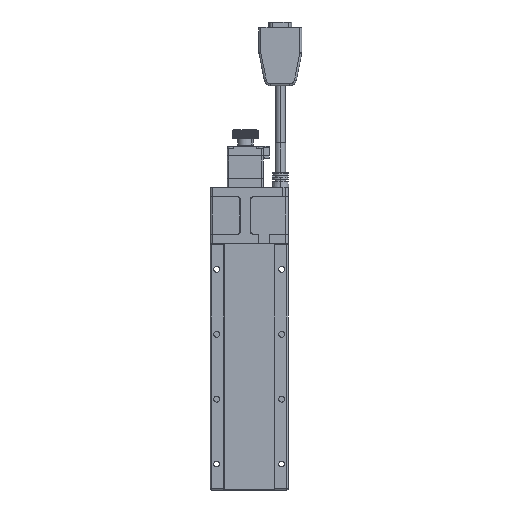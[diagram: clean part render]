
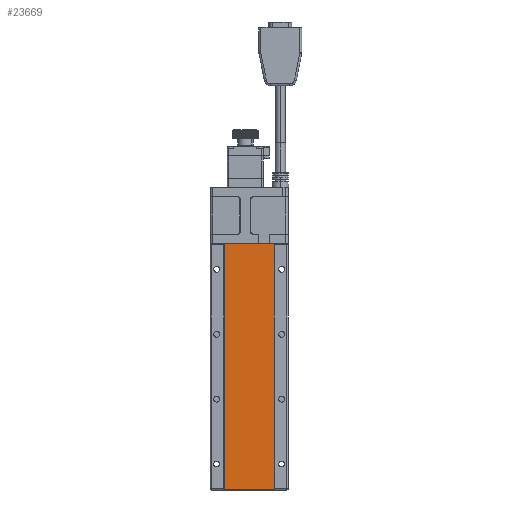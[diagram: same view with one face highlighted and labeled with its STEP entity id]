
A CAD part, front view. The second image highlights one B-rep face of the part: STEP entity #23669.
In plain terms, the highlighted planar face has unit normal (0, -1, 0).
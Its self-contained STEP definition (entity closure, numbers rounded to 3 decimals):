
#116 = EDGE_CURVE ( 'NONE', #92357, #113627, #84438, .T. ) ;
#400 = VERTEX_POINT ( 'NONE', #100101 ) ;
#6520 = DIRECTION ( 'NONE',  ( 0., 1., 0. ) ) ;
#6979 = VECTOR ( 'NONE', #103602, 1000. ) ;
#10996 = EDGE_CURVE ( 'NONE', #113627, #62925, #67364, .T. ) ;
#11541 = EDGE_LOOP ( 'NONE', ( #96310, #76930, #126431, #103143 ) ) ;
#17127 = CARTESIAN_POINT ( 'NONE',  ( -19.2, 0.8, 189.8 ) ) ;
#17843 = DIRECTION ( 'NONE',  ( -1., 0., 0. ) ) ;
#23669 = ADVANCED_FACE ( 'NONE', ( #116794 ), #82186, .F. ) ;
#27202 = CARTESIAN_POINT ( 'NONE',  ( -19.2, 0.8, 0.2 ) ) ;
#44676 = VECTOR ( 'NONE', #70385, 1000. ) ;
#45791 = CARTESIAN_POINT ( 'NONE',  ( 19.4, 0.8, 0.2 ) ) ;
#46091 = CARTESIAN_POINT ( 'NONE',  ( -19.2, 0.8, 189.8 ) ) ;
#51827 = VECTOR ( 'NONE', #87188, 1000. ) ;
#57497 = EDGE_CURVE ( 'NONE', #62925, #400, #114147, .T. ) ;
#58173 = CARTESIAN_POINT ( 'NONE',  ( -19.2, 0.8, 189.8 ) ) ;
#60179 = EDGE_CURVE ( 'NONE', #400, #92357, #71119, .T. ) ;
#62925 = VERTEX_POINT ( 'NONE', #58173 ) ;
#65990 = VECTOR ( 'NONE', #119026, 1000. ) ;
#67364 = LINE ( 'NONE', #46091, #51827 ) ;
#70385 = DIRECTION ( 'NONE',  ( 0., 0., -1. ) ) ;
#71119 = LINE ( 'NONE', #114205, #6979 ) ;
#76478 = AXIS2_PLACEMENT_3D ( 'NONE', #17127, #6520, #17843 ) ;
#76659 = CARTESIAN_POINT ( 'NONE',  ( 19.4, 0.8, 0.2 ) ) ;
#76930 = ORIENTED_EDGE ( 'NONE', *, *, #60179, .T. ) ;
#82186 = PLANE ( 'NONE',  #76478 ) ;
#84438 = LINE ( 'NONE', #76659, #65990 ) ;
#87188 = DIRECTION ( 'NONE',  ( -1., 0., 0. ) ) ;
#89271 = CARTESIAN_POINT ( 'NONE',  ( 19.4, 0.8, 189.8 ) ) ;
#92357 = VERTEX_POINT ( 'NONE', #45791 ) ;
#96310 = ORIENTED_EDGE ( 'NONE', *, *, #57497, .T. ) ;
#100101 = CARTESIAN_POINT ( 'NONE',  ( -19.2, 0.8, 0.2 ) ) ;
#103143 = ORIENTED_EDGE ( 'NONE', *, *, #10996, .T. ) ;
#103602 = DIRECTION ( 'NONE',  ( 1., 0., 0. ) ) ;
#113627 = VERTEX_POINT ( 'NONE', #89271 ) ;
#114147 = LINE ( 'NONE', #27202, #44676 ) ;
#114205 = CARTESIAN_POINT ( 'NONE',  ( -19.2, 0.8, 0.2 ) ) ;
#116794 = FACE_OUTER_BOUND ( 'NONE', #11541, .T. ) ;
#119026 = DIRECTION ( 'NONE',  ( 0., 0., 1. ) ) ;
#126431 = ORIENTED_EDGE ( 'NONE', *, *, #116, .T. ) ;
